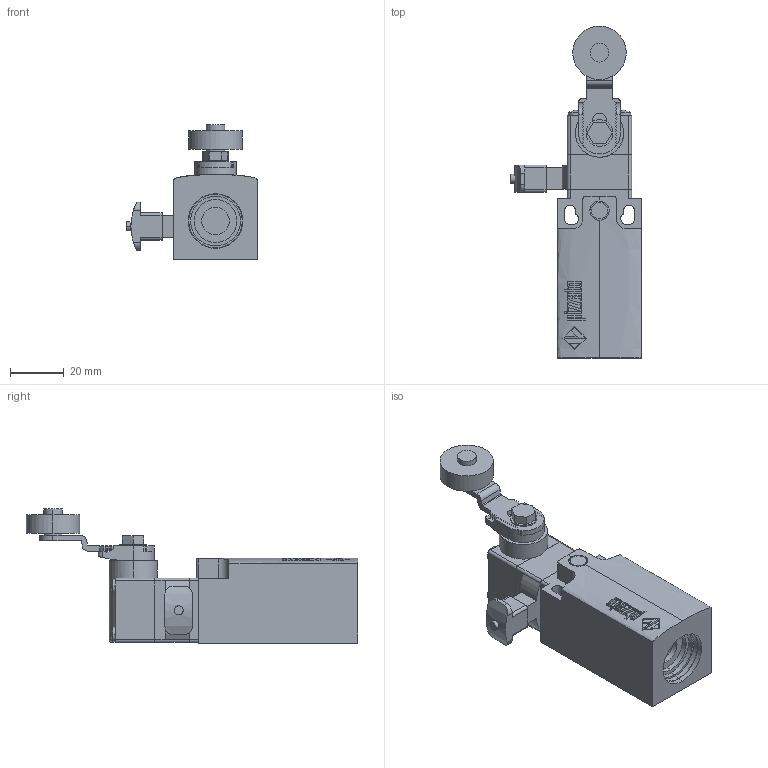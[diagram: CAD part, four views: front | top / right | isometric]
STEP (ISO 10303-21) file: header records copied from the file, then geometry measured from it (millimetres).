
FILE_DESCRIPTION (( 'STEP AP203' ), '1' );
FILE_NAME ('ZF_STEP_FR_x54-W3.STEP', '2024-02-26T08:59:28', ( '' ), ( '' ), 'SwSTEP 2.0', 'SolidWorks 2023', '' );
FILE_SCHEMA (( 'CONFIG_CONTROL_DESIGN' ));
Length unit declared in the file: millimetre
Products named in the file (12): Pizzato_Supporto_TE38; Pizzato_rosetta_6606_Schiacciata; ZF_STEP_VF_TE38; Pizzato_Custodia_FR_3dweb; Pizzato_vite; Pizzato_Modulo_Reset-W3_3dweb; ZF_STEP_VN_A00KG; Pizzato_VN_A00KG; ZF_STEP_FR_x54-W3; Pizzato_Supporto_leve_6325
Assembly tree (11 placements, depth 3):
  ZF_STEP_FR_x54-W3
    Pizzato_Custodia_FR_3dweb
      Pizzato_Custodia_FR_3dweb
    ZF_STEP_VF_TE38
      Pizzato_Supporto_TE38
    ZF_STEP_VN_A00KG
      Pizzato_Supporto_leve_6325
      Pizzato_rosetta_6606_Schiacciata
      Pizzato_vite
      Pizzato_VN_A00KG
    Pizzato_Modulo_Reset-W3_3dweb
      Pizzato_Modulo_Reset-W3_3dweb
Bounding box: 48.8 x 124 x 50.1 mm (x, y, z)
Volume: 79386.5 mm3; surface area: 23411.1 mm2
Topology: 7 solids, 7 shells, 933 faces, 2591 edges, 1724 vertices
Faces by surface type: plane 552, cylinder 258, bspline 114, sphere 8, torus 1
Entity records: 35380 total; most frequent: CARTESIAN_POINT 10784, ORIENTED_EDGE 5182, DIRECTION 4398, EDGE_CURVE 2591, VECTOR 1738, LINE 1738, VERTEX_POINT 1724, AXIS2_PLACEMENT_3D 1330
